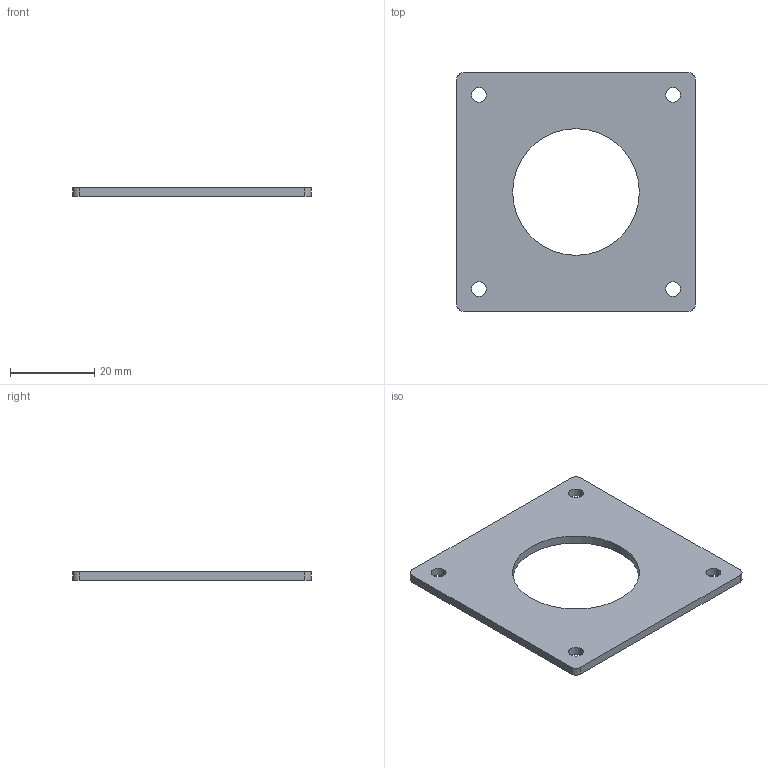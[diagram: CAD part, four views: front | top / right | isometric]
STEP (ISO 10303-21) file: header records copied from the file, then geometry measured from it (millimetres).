
FILE_DESCRIPTION (( 'STEP AP214' ), '1' );
FILE_NAME ('LSQ-00-050-2-DIFFUSER.STEP', '2021-11-05T01:30:42', ( '' ), ( '' ), 'SwSTEP 2.0', 'SolidWorks 2021', '' );
FILE_SCHEMA (( 'AUTOMOTIVE_DESIGN' ));
Length unit declared in the file: millimetre
Products named in the file (1): LSQ-00-050-2-DIFFUSER
Bounding box: 56.5 x 56.5 x 2 mm (x, y, z)
Volume: 4890 mm3; surface area: 5613.3 mm2
Topology: 1 solids, 1 shells, 20 faces, 54 edges, 36 vertices
Faces by surface type: cylinder 14, plane 6
Entity records: 700 total; most frequent: DIRECTION 124, CARTESIAN_POINT 111, ORIENTED_EDGE 108, EDGE_CURVE 54, AXIS2_PLACEMENT_3D 49, VERTEX_POINT 36, EDGE_LOOP 30, CIRCLE 28
